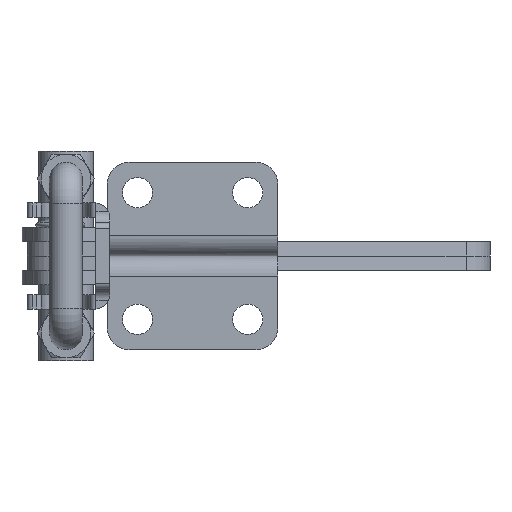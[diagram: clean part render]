
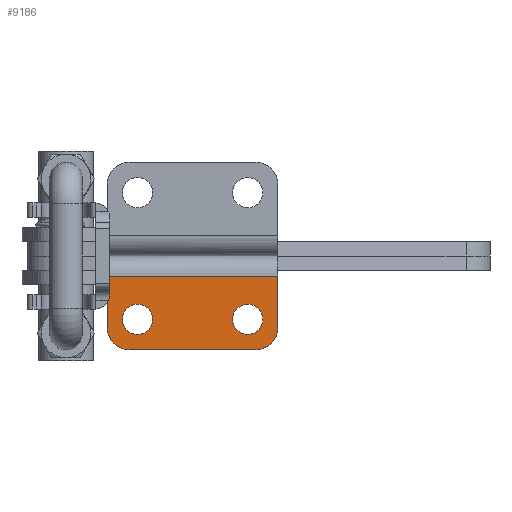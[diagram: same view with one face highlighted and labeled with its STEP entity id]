
A CAD part, front view. The second image highlights one B-rep face of the part: STEP entity #9186.
In plain terms, the highlighted planar face has unit normal (0, -1, 0).
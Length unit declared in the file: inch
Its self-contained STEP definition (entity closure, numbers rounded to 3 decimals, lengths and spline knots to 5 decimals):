
#8945=CARTESIAN_POINT('',(30.24246,-7.83897,-0.8719));
#8946=VERTEX_POINT('',#8945);
#8956=CARTESIAN_POINT('',(32.17946,-7.83897,-0.8719));
#8957=VERTEX_POINT('',#8956);
#8958=CARTESIAN_POINT('',(32.17946,-7.83897,-0.8719));
#8959=DIRECTION('',(-1.0,0.0,0.0));
#8960=VECTOR('',#8959,1.937);
#8961=LINE('',#8958,#8960);
#8962=EDGE_CURVE('',#8957,#8946,#8961,.T.);
#9011=CARTESIAN_POINT('',(32.17946,-7.83897,-1.4575));
#9012=VERTEX_POINT('',#9011);
#9019=CARTESIAN_POINT('',(31.92946,-7.83897,-1.7075));
#9020=VERTEX_POINT('',#9019);
#9021=CARTESIAN_POINT('',(31.92946,-7.83897,-1.4575));
#9022=DIRECTION('',(0.0,-1.0,0.0));
#9023=DIRECTION('',(0.707,0.0,-0.707));
#9024=AXIS2_PLACEMENT_3D('',#9021,#9022,#9023);
#9025=CIRCLE('',#9024,0.25);
#9026=EDGE_CURVE('',#9020,#9012,#9025,.T.);
#9042=CARTESIAN_POINT('',(30.24246,-7.83897,-1.4575));
#9043=VERTEX_POINT('',#9042);
#9044=CARTESIAN_POINT('',(30.49246,-7.83897,-1.7075));
#9045=VERTEX_POINT('',#9044);
#9046=CARTESIAN_POINT('',(30.49246,-7.83897,-1.4575));
#9047=DIRECTION('',(0.0,-1.0,0.0));
#9048=DIRECTION('',(-0.707,0.0,-0.707));
#9049=AXIS2_PLACEMENT_3D('',#9046,#9047,#9048);
#9050=CIRCLE('',#9049,0.25);
#9051=EDGE_CURVE('',#9043,#9045,#9050,.T.);
#9084=CARTESIAN_POINT('',(30.41446,-7.83897,-1.3635));
#9085=VERTEX_POINT('',#9084);
#9086=CARTESIAN_POINT('',(30.58596,-7.83897,-1.3635));
#9087=DIRECTION('',(0.0,-1.0,0.0));
#9088=DIRECTION('',(1.0,0.0,0.0));
#9089=AXIS2_PLACEMENT_3D('',#9086,#9087,#9088);
#9090=CIRCLE('',#9089,0.1715);
#9091=EDGE_CURVE('',#9085,#9085,#9090,.T.);
#9112=CARTESIAN_POINT('',(31.66446,-7.83897,-1.3635));
#9113=VERTEX_POINT('',#9112);
#9114=CARTESIAN_POINT('',(31.83596,-7.83897,-1.3635));
#9115=DIRECTION('',(0.0,-1.0,0.0));
#9116=DIRECTION('',(1.0,0.0,0.0));
#9117=AXIS2_PLACEMENT_3D('',#9114,#9115,#9116);
#9118=CIRCLE('',#9117,0.1715);
#9119=EDGE_CURVE('',#9113,#9113,#9118,.T.);
#9148=CARTESIAN_POINT('',(31.92946,-7.83897,-1.7075));
#9149=DIRECTION('',(-1.0,0.0,0.0));
#9150=VECTOR('',#9149,1.437);
#9151=LINE('',#9148,#9150);
#9152=EDGE_CURVE('',#9020,#9045,#9151,.T.);
#9157=CARTESIAN_POINT('',(32.17946,-7.83897,-0.6445));
#9158=DIRECTION('',(0.0,1.0,0.0));
#9159=DIRECTION('',(0.0,0.0,1.0));
#9160=AXIS2_PLACEMENT_3D('',#9157,#9158,#9159);
#9161=PLANE('',#9160);
#9162=ORIENTED_EDGE('',*,*,#9051,.T.);
#9163=ORIENTED_EDGE('',*,*,#9152,.F.);
#9164=ORIENTED_EDGE('',*,*,#9026,.T.);
#9165=CARTESIAN_POINT('',(32.17946,-7.83897,-0.8719));
#9166=DIRECTION('',(0.0,0.0,-1.0));
#9167=VECTOR('',#9166,0.5856);
#9168=LINE('',#9165,#9167);
#9169=EDGE_CURVE('',#8957,#9012,#9168,.T.);
#9170=ORIENTED_EDGE('',*,*,#9169,.F.);
#9171=ORIENTED_EDGE('',*,*,#8962,.T.);
#9172=CARTESIAN_POINT('',(30.24246,-7.83897,-0.8719));
#9173=DIRECTION('',(0.0,0.0,-1.0));
#9174=VECTOR('',#9173,0.5856);
#9175=LINE('',#9172,#9174);
#9176=EDGE_CURVE('',#8946,#9043,#9175,.T.);
#9177=ORIENTED_EDGE('',*,*,#9176,.T.);
#9178=EDGE_LOOP('',(#9162,#9163,#9164,#9170,#9171,#9177));
#9179=FACE_OUTER_BOUND('',#9178,.T.);
#9180=ORIENTED_EDGE('',*,*,#9119,.F.);
#9181=EDGE_LOOP('',(#9180));
#9182=FACE_BOUND('',#9181,.T.);
#9183=ORIENTED_EDGE('',*,*,#9091,.F.);
#9184=EDGE_LOOP('',(#9183));
#9185=FACE_BOUND('',#9184,.T.);
#9186=ADVANCED_FACE('',(#9179,#9182,#9185),#9161,.F.);
